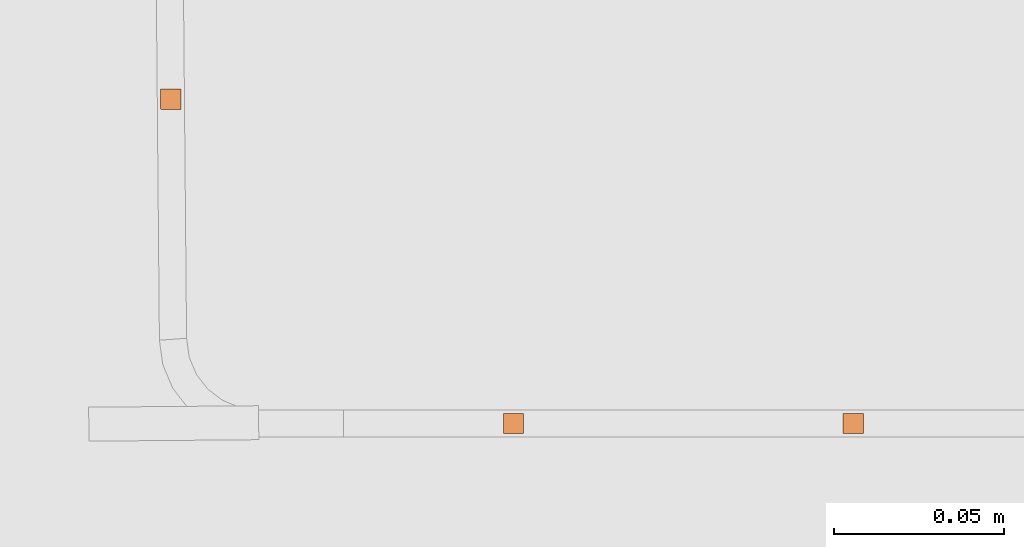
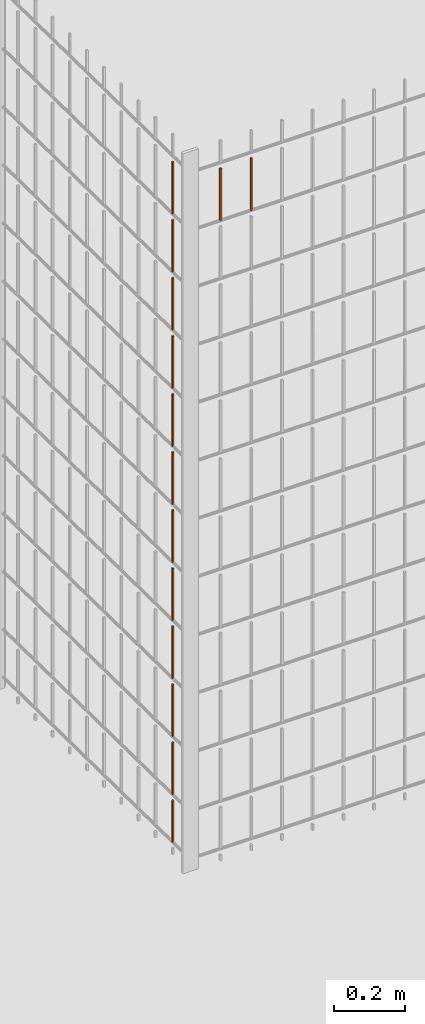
# One storey, part 235 of 1809: 14 proxies, 1 element without a shape of its own.
"""IFC2X3 building model written with IfcOpenShell, lengths in millimetres."""

from ifc_helpers import new_model, entity, si_unit, converted_unit, derived_unit, money_unit, direction, frame, origin_with_axes, place, context, subcontext, project, spatial, faceted_brep, source, transform, mapped, material, type_object, element, aggregate, save


model = new_model("IFC2X3")

# Units and contexts
model_context = context("Model", 3, precision=0.01, world=origin_with_axes(), true_north=direction((0.0, 1.0)))
body_context = subcontext(model_context, "Body", "Model", "MODEL_VIEW")
ifc_project = project(units=[si_unit("LENGTHUNIT", "METRE", prefix="MILLI"), si_unit("AREAUNIT", "SQUARE_METRE"), si_unit("VOLUMEUNIT", "CUBIC_METRE"), converted_unit("PLANEANGLEUNIT", "DEGREE", entity("IfcPlaneAngleMeasure", 0.0174532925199), si_unit("PLANEANGLEUNIT", "RADIAN"), dimensions=[0, 0, 0, 0, 0, 0, 0]), si_unit("SOLIDANGLEUNIT", "STERADIAN"), money_unit("EUR"), converted_unit("TIMEUNIT", "Year", entity("IfcTimeMeasure", 31556926.0), si_unit("TIMEUNIT", "SECOND"), dimensions=[0, 0, 1, 0, 0, 0, 0]), si_unit("MASSUNIT", "GRAM", prefix="KILO"), si_unit("THERMODYNAMICTEMPERATUREUNIT", "DEGREE_CELSIUS"), si_unit("LUMINOUSINTENSITYUNIT", "LUMEN"), si_unit("ENERGYUNIT", "JOULE", prefix="MEGA"), derived_unit("THERMALCONDUCTANCEUNIT", [(si_unit("POWERUNIT", "WATT"), 1), (si_unit("LENGTHUNIT", "METRE"), -1), (si_unit("THERMODYNAMICTEMPERATUREUNIT", "KELVIN"), -1)]), derived_unit("SPECIFICHEATCAPACITYUNIT", [(si_unit("ENERGYUNIT", "JOULE"), 1), (si_unit("MASSUNIT", "GRAM", prefix="KILO"), -1), (si_unit("THERMODYNAMICTEMPERATUREUNIT", "KELVIN"), -1)]), derived_unit("MASSDENSITYUNIT", [(si_unit("MASSUNIT", "GRAM", prefix="KILO"), 1), (si_unit("VOLUMEUNIT", "CUBIC_METRE"), -1)])], contexts=[model_context])

# Site, building, storey
site_placement = place(None, origin_with_axes())
site = spatial("IfcSite", under=ifc_project, at=site_placement, Name="Politse- ja Piirivalveameti ning Päästeameti ühishoone", CompositionType="ELEMENT")
building_placement = place(site_placement, origin_with_axes())
building = spatial("IfcBuilding", under=site, at=building_placement, Name="Politse- ja Piirivalveameti ning Päästeameti ühishoone", CompositionType="ELEMENT")
storey_placement = place(building_placement, origin_with_axes())
storey = spatial("IfcBuildingStorey", under=building, at=storey_placement, Name="Esimene korrus", CompositionType="ELEMENT", Elevation=0.0)

# Proxies
building_element_proxy_type_1 = type_object("IfcBuildingElementProxyType", Name="Railing Type", PredefinedType="NOTDEFINED")
proxy_1_placement = place(storey_placement, frame((-16775.8601056, 25156.7555964, 0.0), z_axis=(0.0, 0.0, 1.0), x_axis=(1.0, 0.0, 0.0)))
proxy_1 = element("IfcBuildingElementProxy", 1, at=proxy_1_placement, inside=storey, type_object=building_element_proxy_type_1, Name="KENNELI PIIRE")
ifc_material = material(Name="Teras - Konstruktsioon")
building_element_proxy_type_2 = type_object("IfcBuildingElementProxyType", Name="IfcBuildingElementProxy", PredefinedType="NOTDEFINED")
shared_shape_1 = source(origin_with_axes(), body_context, "Body", "Brep", [
    faceted_brep([(3.0, 3.0, 0.0), (-3.0, 3.0, 0.0), (-3.0, 3.0, 180.000012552), (3.0, 3.0, 180.000012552), (3.0, -3.0, 0.0), (-3.0, -3.0, 0.0), (-3.0, -3.0, 180.000012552), (3.0, -3.0, 180.000012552)], [[[0, 1, 2, 3]], [[0, 4, 5, 1]], [[1, 5, 6, 2]], [[3, 2, 6, 7]], [[4, 0, 3, 7]], [[5, 4, 7, 6]]]),
])
proxy_2_placement = place(proxy_1_placement, frame((-4883.11540565, -15973.4096356, 403.999987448), z_axis=(0.0, 0.0, 1.0), x_axis=(1.0, 0.0, 0.0)))
proxy_2 = element("IfcBuildingElementProxy", 2, at=proxy_2_placement, type_object=building_element_proxy_type_2, material=ifc_material, Name="BALUSTER - 001", context=body_context, shape_type="MappedRepresentation", body=[
    mapped(shared_shape_1, transform((0.0, 0.0, 0.0), x_axis=(-0.999960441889, -0.00889464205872, 0.0), y_axis=(0.00889464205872, -0.999960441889, 0.0), z_axis=(0.0, 0.0, 1.0))),
])
proxy_3_placement = place(proxy_1_placement, frame((-4883.11540565, -15973.4096356, 803.999987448), z_axis=(0.0, 0.0, 1.0), x_axis=(1.0, 0.0, 0.0)))
proxy_3 = element("IfcBuildingElementProxy", 3, at=proxy_3_placement, type_object=building_element_proxy_type_2, material=ifc_material, Name="BALUSTER - 001", context=body_context, shape_type="MappedRepresentation", body=[
    mapped(shared_shape_1, transform((0.0, 0.0, 0.0), x_axis=(-0.999960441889, -0.00889464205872, 0.0), y_axis=(0.00889464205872, -0.999960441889, 0.0), z_axis=(0.0, 0.0, 1.0))),
])
proxy_4_placement = place(proxy_1_placement, frame((-4883.11540565, -15973.4096356, 1003.99998745), z_axis=(0.0, 0.0, 1.0), x_axis=(1.0, 0.0, 0.0)))
proxy_4 = element("IfcBuildingElementProxy", 4, at=proxy_4_placement, type_object=building_element_proxy_type_2, material=ifc_material, Name="BALUSTER - 001", context=body_context, shape_type="MappedRepresentation", body=[
    mapped(shared_shape_1, transform((0.0, 0.0, 0.0), x_axis=(-0.999960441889, -0.00889464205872, 0.0), y_axis=(0.00889464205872, -0.999960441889, 0.0), z_axis=(0.0, 0.0, 1.0))),
])
shared_shape_2 = source(origin_with_axes(), body_context, "Body", "Brep", [
    faceted_brep([(3.0, 3.0, 0.0), (-3.0, 3.0, 0.0), (-3.0, 3.0, 144.000012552), (3.0, 3.0, 144.000012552), (3.0, -3.0, 0.0), (-3.0, -3.0, 0.0), (-3.0, -3.0, 144.000012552), (3.0, -3.0, 144.000012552)], [[[0, 1, 2, 3]], [[0, 4, 5, 1]], [[1, 5, 6, 2]], [[3, 2, 6, 7]], [[4, 0, 3, 7]], [[5, 4, 7, 6]]]),
])
proxy_5_placement = place(proxy_1_placement, frame((-4883.11540565, -15973.4096356, 39.9999874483), z_axis=(0.0, 0.0, 1.0), x_axis=(1.0, 0.0, 0.0)))
proxy_5 = element("IfcBuildingElementProxy", 5, at=proxy_5_placement, type_object=building_element_proxy_type_2, material=ifc_material, Name="BALUSTER - 001", context=body_context, shape_type="MappedRepresentation", body=[
    mapped(shared_shape_2, transform((0.0, 0.0, 0.0), x_axis=(-0.999960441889, -0.00889464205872, 0.0), y_axis=(0.00889464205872, -0.999960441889, 0.0), z_axis=(0.0, 0.0, 1.0))),
])
shared_shape_3 = source(origin_with_axes(), body_context, "Body", "Brep", [
    faceted_brep([(3.0, 3.0, 0.0), (-3.0, 3.0, 0.0), (-3.0, 3.0, 180.000012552), (3.0, 3.0, 180.000012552), (3.0, -3.0, 0.0), (-3.0, -3.0, 0.0), (-3.0, -3.0, 180.000012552), (3.0, -3.0, 180.000012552)], [[[0, 1, 2, 3]], [[0, 4, 5, 1]], [[1, 5, 6, 2]], [[3, 2, 6, 7]], [[4, 0, 3, 7]], [[5, 4, 7, 6]]]),
])
proxy_6_placement = place(proxy_1_placement, frame((-4883.11540565, -15973.4096356, 1803.99998745), z_axis=(0.0, 0.0, 1.0), x_axis=(1.0, 0.0, 0.0)))
proxy_6 = element("IfcBuildingElementProxy", 6, at=proxy_6_placement, type_object=building_element_proxy_type_2, material=ifc_material, Name="BALUSTER - 001", context=body_context, shape_type="MappedRepresentation", body=[
    mapped(shared_shape_3, transform((0.0, 0.0, 0.0), x_axis=(-0.999960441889, -0.00889464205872, 0.0), y_axis=(0.00889464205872, -0.999960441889, 0.0), z_axis=(0.0, 0.0, 1.0))),
])
shared_shape_4 = source(origin_with_axes(), body_context, "Body", "Brep", [
    faceted_brep([(3.0, 3.0, 0.0), (-3.0, 3.0, 0.0), (-3.0, 3.0, 180.000012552), (3.0, 3.0, 180.000012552), (3.0, -3.0, 0.0), (-3.0, -3.0, 0.0), (-3.0, -3.0, 180.000012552), (3.0, -3.0, 180.000012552)], [[[0, 1, 2, 3]], [[0, 4, 5, 1]], [[1, 5, 6, 2]], [[3, 2, 6, 7]], [[4, 0, 3, 7]], [[5, 4, 7, 6]]]),
])
proxy_7_placement = place(proxy_1_placement, frame((-4883.11540565, -15973.4096356, 1403.99998745), z_axis=(0.0, 0.0, 1.0), x_axis=(1.0, 0.0, 0.0)))
proxy_7 = element("IfcBuildingElementProxy", 7, at=proxy_7_placement, type_object=building_element_proxy_type_2, material=ifc_material, Name="BALUSTER - 001", context=body_context, shape_type="MappedRepresentation", body=[
    mapped(shared_shape_4, transform((0.0, 0.0, 0.0), x_axis=(-0.999960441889, -0.00889464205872, 0.0), y_axis=(0.00889464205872, -0.999960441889, 0.0), z_axis=(0.0, 0.0, 1.0))),
])
shared_shape_5 = source(origin_with_axes(), body_context, "Body", "Brep", [
    faceted_brep([(3.0, 3.0, 0.0), (-3.0, 3.0, 0.0), (-3.0, 3.0, 180.000012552), (3.0, 3.0, 180.000012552), (3.0, -3.0, 0.0), (-3.0, -3.0, 0.0), (-3.0, -3.0, 180.000012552), (3.0, -3.0, 180.000012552)], [[[0, 1, 2, 3]], [[0, 4, 5, 1]], [[1, 5, 6, 2]], [[3, 2, 6, 7]], [[4, 0, 3, 7]], [[5, 4, 7, 6]]]),
])
proxy_8_placement = place(proxy_1_placement, frame((-4883.11540565, -15973.4096356, 2003.99998745), z_axis=(0.0, 0.0, 1.0), x_axis=(1.0, 0.0, 0.0)))
proxy_8 = element("IfcBuildingElementProxy", 8, at=proxy_8_placement, type_object=building_element_proxy_type_2, material=ifc_material, Name="BALUSTER - 001", context=body_context, shape_type="MappedRepresentation", body=[
    mapped(shared_shape_5, transform((0.0, 0.0, 0.0), x_axis=(-0.999960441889, -0.00889464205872, 0.0), y_axis=(0.00889464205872, -0.999960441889, 0.0), z_axis=(0.0, 0.0, 1.0))),
])
shared_shape_6 = source(origin_with_axes(), body_context, "Body", "Brep", [
    faceted_brep([(3.0, 3.0, 0.0), (-3.0, 3.0, 0.0), (-3.0, 3.0, 180.000012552), (3.0, 3.0, 180.000012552), (3.0, -3.0, 0.0), (-3.0, -3.0, 0.0), (-3.0, -3.0, 180.000012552), (3.0, -3.0, 180.000012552)], [[[0, 1, 2, 3]], [[0, 4, 5, 1]], [[1, 5, 6, 2]], [[3, 2, 6, 7]], [[4, 0, 3, 7]], [[5, 4, 7, 6]]]),
])
proxy_9_placement = place(proxy_1_placement, frame((-4883.11540565, -15973.4096356, 203.999987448), z_axis=(0.0, 0.0, 1.0), x_axis=(1.0, 0.0, 0.0)))
proxy_9 = element("IfcBuildingElementProxy", 9, at=proxy_9_placement, type_object=building_element_proxy_type_2, material=ifc_material, Name="BALUSTER - 001", context=body_context, shape_type="MappedRepresentation", body=[
    mapped(shared_shape_6, transform((0.0, 0.0, 0.0), x_axis=(-0.999960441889, -0.00889464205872, 0.0), y_axis=(0.00889464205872, -0.999960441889, 0.0), z_axis=(0.0, 0.0, 1.0))),
])
shared_shape_7 = source(origin_with_axes(), body_context, "Body", "Brep", [
    faceted_brep([(3.0, 3.0, 0.0), (-3.0, 3.0, 0.0), (-3.0, 3.0, 180.000012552), (3.0, 3.0, 180.000012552), (3.0, -3.0, 0.0), (-3.0, -3.0, 0.0), (-3.0, -3.0, 180.000012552), (3.0, -3.0, 180.000012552)], [[[0, 1, 2, 3]], [[0, 4, 5, 1]], [[1, 5, 6, 2]], [[3, 2, 6, 7]], [[4, 0, 3, 7]], [[5, 4, 7, 6]]]),
])
proxy_10_placement = place(proxy_1_placement, frame((-4883.11540565, -15973.4096356, 603.999987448), z_axis=(0.0, 0.0, 1.0), x_axis=(1.0, 0.0, 0.0)))
proxy_10 = element("IfcBuildingElementProxy", 10, at=proxy_10_placement, type_object=building_element_proxy_type_2, material=ifc_material, Name="BALUSTER - 001", context=body_context, shape_type="MappedRepresentation", body=[
    mapped(shared_shape_7, transform((0.0, 0.0, 0.0), x_axis=(-0.999960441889, -0.00889464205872, 0.0), y_axis=(0.00889464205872, -0.999960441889, 0.0), z_axis=(0.0, 0.0, 1.0))),
])
shared_shape_8 = source(origin_with_axes(), body_context, "Body", "Brep", [
    faceted_brep([(3.0, 3.0, 0.0), (-3.0, 3.0, 0.0), (-3.0, 3.0, 180.000012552), (3.0, 3.0, 180.000012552), (3.0, -3.0, 0.0), (-3.0, -3.0, 0.0), (-3.0, -3.0, 180.000012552), (3.0, -3.0, 180.000012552)], [[[0, 1, 2, 3]], [[0, 4, 5, 1]], [[1, 5, 6, 2]], [[3, 2, 6, 7]], [[4, 0, 3, 7]], [[5, 4, 7, 6]]]),
])
proxy_11_placement = place(proxy_1_placement, frame((-4883.11540565, -15973.4096356, 2203.99998745), z_axis=(0.0, 0.0, 1.0), x_axis=(1.0, 0.0, 0.0)))
proxy_11 = element("IfcBuildingElementProxy", 11, at=proxy_11_placement, type_object=building_element_proxy_type_2, material=ifc_material, Name="BALUSTER - 001", context=body_context, shape_type="MappedRepresentation", body=[
    mapped(shared_shape_8, transform((0.0, 0.0, 0.0), x_axis=(-0.999960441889, -0.00889464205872, 0.0), y_axis=(0.00889464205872, -0.999960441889, 0.0), z_axis=(0.0, 0.0, 1.0))),
])
proxy_12_placement = place(proxy_1_placement, frame((-4883.11540565, -15973.4096356, 1203.99998745), z_axis=(0.0, 0.0, 1.0), x_axis=(1.0, 0.0, 0.0)))
proxy_12 = element("IfcBuildingElementProxy", 12, at=proxy_12_placement, type_object=building_element_proxy_type_2, material=ifc_material, Name="BALUSTER - 001", context=body_context, shape_type="MappedRepresentation", body=[
    mapped(shared_shape_8, transform((0.0, 0.0, 0.0), x_axis=(-0.999960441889, -0.00889464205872, 0.0), y_axis=(0.00889464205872, -0.999960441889, 0.0), z_axis=(0.0, 0.0, 1.0))),
])
shared_shape_9 = source(origin_with_axes(), body_context, "Body", "Brep", [
    faceted_brep([(3.0, 3.0, 0.0), (-3.0, 3.0, 0.0), (-3.0, 3.0, 180.000012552), (3.0, 3.0, 180.000012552), (3.0, -3.0, 0.0), (-3.0, -3.0, 0.0), (-3.0, -3.0, 180.000012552), (3.0, -3.0, 180.000012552)], [[[0, 1, 2, 3]], [[0, 4, 5, 1]], [[1, 5, 6, 2]], [[3, 2, 6, 7]], [[4, 0, 3, 7]], [[5, 4, 7, 6]]]),
])
proxy_13_placement = place(proxy_1_placement, frame((-4883.11540565, -15973.4096356, 1603.99998745), z_axis=(0.0, 0.0, 1.0), x_axis=(1.0, 0.0, 0.0)))
proxy_13 = element("IfcBuildingElementProxy", 13, at=proxy_13_placement, type_object=building_element_proxy_type_2, material=ifc_material, Name="BALUSTER - 001", context=body_context, shape_type="MappedRepresentation", body=[
    mapped(shared_shape_9, transform((0.0, 0.0, 0.0), x_axis=(-0.999960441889, -0.00889464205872, 0.0), y_axis=(0.00889464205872, -0.999960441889, 0.0), z_axis=(0.0, 0.0, 1.0))),
])
shared_shape_10 = source(origin_with_axes(), body_context, "Body", "Brep", [
    faceted_brep([(3.0, 3.0, 0.0), (-3.0, 3.0, 0.0), (-3.0, 3.0, 180.000012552), (3.0, 3.0, 180.000012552), (3.0, -3.0, 0.0), (-3.0, -3.0, 0.0), (-3.0, -3.0, 180.000012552), (3.0, -3.0, 180.000012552)], [[[0, 1, 2, 3]], [[0, 4, 5, 1]], [[1, 5, 6, 2]], [[3, 2, 6, 7]], [[4, 0, 3, 7]], [[5, 4, 7, 6]]]),
])
proxy_14_placement = place(proxy_1_placement, frame((-4782.26655065, -16068.8402798, 2203.99998745), z_axis=(0.0, 0.0, 1.0), x_axis=(1.0, 0.0, 0.0)))
proxy_14 = element("IfcBuildingElementProxy", 14, at=proxy_14_placement, type_object=building_element_proxy_type_2, material=ifc_material, Name="BALUSTER - 001", context=body_context, shape_type="MappedRepresentation", body=[
    mapped(shared_shape_10, transform((0.0, 0.0, 0.0), x_axis=(0.0, -1.0, 0.0), y_axis=(1.0, 0.0, 0.0), z_axis=(0.0, 0.0, 1.0))),
])
proxy_15_placement = place(proxy_1_placement, frame((-4682.26655065, -16068.8402798, 2203.99998745), z_axis=(0.0, 0.0, 1.0), x_axis=(1.0, 0.0, 0.0)))
proxy_15 = element("IfcBuildingElementProxy", 15, at=proxy_15_placement, type_object=building_element_proxy_type_2, material=ifc_material, Name="BALUSTER - 001", context=body_context, shape_type="MappedRepresentation", body=[
    mapped(shared_shape_10, transform((0.0, 0.0, 0.0), x_axis=(0.0, -1.0, 0.0), y_axis=(1.0, 0.0, 0.0), z_axis=(0.0, 0.0, 1.0))),
])
aggregate(proxy_1, [proxy_11, proxy_5, proxy_9, proxy_2, proxy_10, proxy_3, proxy_4, proxy_12, proxy_7, proxy_13, proxy_6, proxy_8, proxy_14, proxy_15])

save(model, "model.ifc")
